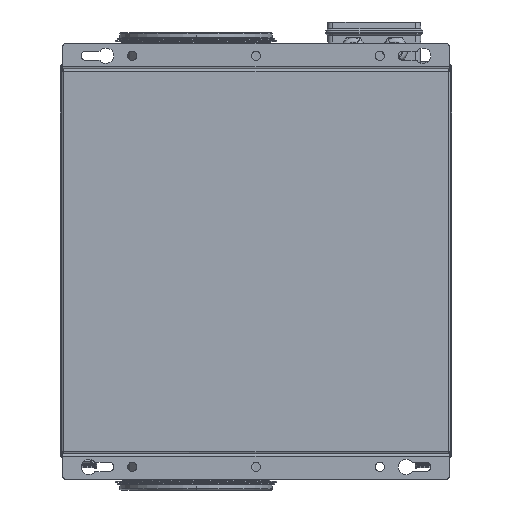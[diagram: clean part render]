
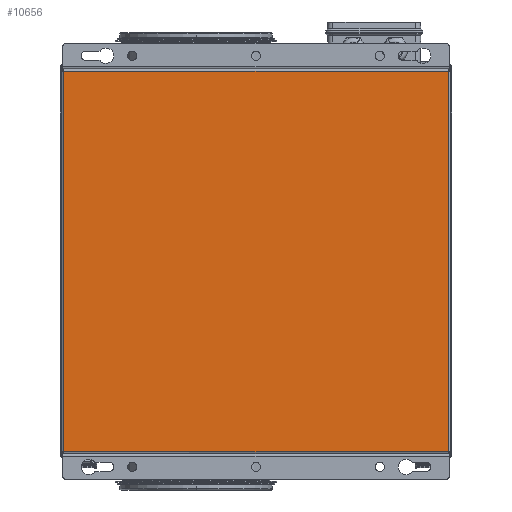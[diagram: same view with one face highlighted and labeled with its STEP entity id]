
A CAD part, front view. The second image highlights one B-rep face of the part: STEP entity #10656.
In plain terms, the highlighted planar face has unit normal (0, -1, 0).
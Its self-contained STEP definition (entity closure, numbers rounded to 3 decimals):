
#346 = VERTEX_POINT ( 'NONE', #18920 ) ;
#931 = CARTESIAN_POINT ( 'NONE',  ( 188., 0., 186. ) ) ;
#1975 = LINE ( 'NONE', #3887, #27628 ) ;
#2118 = VECTOR ( 'NONE', #16984, 1000. ) ;
#3134 = CARTESIAN_POINT ( 'NONE',  ( -188., 0., 188. ) ) ;
#3887 = CARTESIAN_POINT ( 'NONE',  ( -188., 0., -186. ) ) ;
#4166 = PLANE ( 'NONE',  #16266 ) ;
#4174 = VECTOR ( 'NONE', #27888, 1000. ) ;
#4270 = VERTEX_POINT ( 'NONE', #11570 ) ;
#4401 = EDGE_LOOP ( 'NONE', ( #18563, #4719, #7302, #5069 ) ) ;
#4719 = ORIENTED_EDGE ( 'NONE', *, *, #5686, .T. ) ;
#4729 = DIRECTION ( 'NONE',  ( 0., 1., 0. ) ) ;
#4771 = VERTEX_POINT ( 'NONE', #931 ) ;
#5069 = ORIENTED_EDGE ( 'NONE', *, *, #23171, .T. ) ;
#5686 = EDGE_CURVE ( 'NONE', #20395, #4771, #21927, .T. ) ;
#7302 = ORIENTED_EDGE ( 'NONE', *, *, #11026, .T. ) ;
#10308 = DIRECTION ( 'NONE',  ( 1., 0., 0. ) ) ;
#10656 = ADVANCED_FACE ( 'NONE', ( #11292 ), #4166, .F. ) ;
#10721 = DIRECTION ( 'NONE',  ( 0., 0., 1. ) ) ;
#11026 = EDGE_CURVE ( 'NONE', #4771, #346, #14500, .T. ) ;
#11150 = DIRECTION ( 'NONE',  ( 0., 0., 1. ) ) ;
#11292 = FACE_OUTER_BOUND ( 'NONE', #4401, .T. ) ;
#11570 = CARTESIAN_POINT ( 'NONE',  ( -188., 0., -186. ) ) ;
#13211 = CARTESIAN_POINT ( 'NONE',  ( 188., 0., -186. ) ) ;
#14500 = LINE ( 'NONE', #23371, #4174 ) ;
#16266 = AXIS2_PLACEMENT_3D ( 'NONE', #22222, #4729, #10721 ) ;
#16984 = DIRECTION ( 'NONE',  ( 0., 0., -1. ) ) ;
#18563 = ORIENTED_EDGE ( 'NONE', *, *, #28499, .T. ) ;
#18920 = CARTESIAN_POINT ( 'NONE',  ( -188., 0., 186. ) ) ;
#19299 = VECTOR ( 'NONE', #11150, 1000. ) ;
#20395 = VERTEX_POINT ( 'NONE', #13211 ) ;
#21927 = LINE ( 'NONE', #26713, #19299 ) ;
#22222 = CARTESIAN_POINT ( 'NONE',  ( -190., 0., 188. ) ) ;
#23171 = EDGE_CURVE ( 'NONE', #346, #4270, #25402, .T. ) ;
#23371 = CARTESIAN_POINT ( 'NONE',  ( 188., 0., 186. ) ) ;
#25402 = LINE ( 'NONE', #3134, #2118 ) ;
#26713 = CARTESIAN_POINT ( 'NONE',  ( 188., 0., -188. ) ) ;
#27628 = VECTOR ( 'NONE', #10308, 1000. ) ;
#27888 = DIRECTION ( 'NONE',  ( -1., 0., 0. ) ) ;
#28499 = EDGE_CURVE ( 'NONE', #4270, #20395, #1975, .T. ) ;
